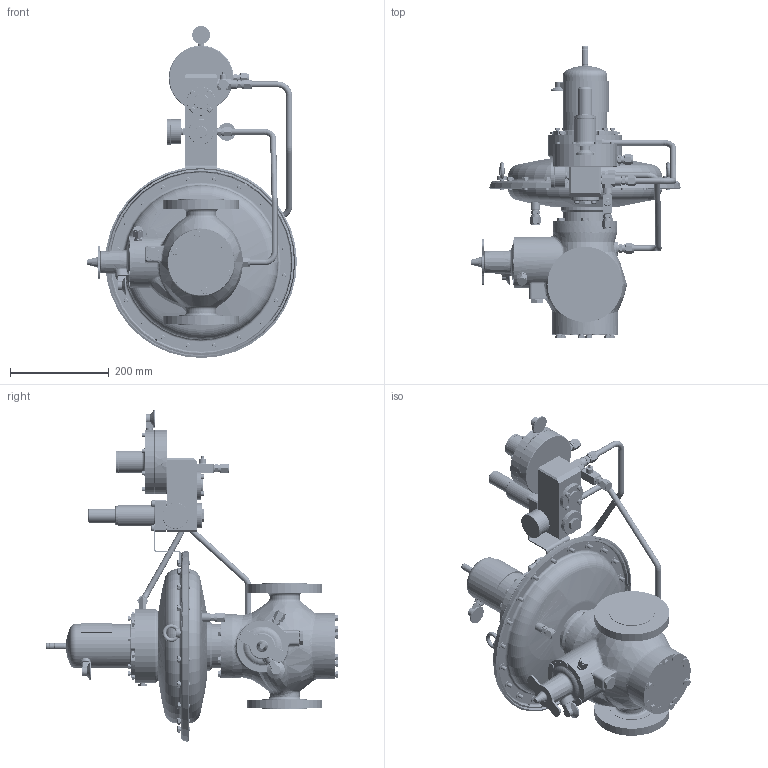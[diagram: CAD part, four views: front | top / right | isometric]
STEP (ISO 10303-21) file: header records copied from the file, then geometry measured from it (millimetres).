
FILE_DESCRIPTION((''),'2;1');
FILE_NAME('ASM0003_SW0002','2018-10-03T',('jjunior'),(''),'PRO/ENGINEER BY PARAMETRIC TECHNOLOGY CORPORATION, 2010160','PRO/ENGINEER BY PARAMETRIC TECHNOLOGY CORPORATION, 2010160','');
FILE_SCHEMA(('CONFIG_CONTROL_DESIGN'));
Products named in the file (1): ASM0003_SW0002
Bounding box: 423.77 x 590.15 x 670.92 mm (x, y, z)
Volume: 5573220.9 mm3; surface area: 1557798.6 mm2
Topology: 2 solids, 6 shells, 4022 faces, 9511 edges, 5851 vertices
Faces by surface type: plane 1325, cylinder 1118, cone 849, torus 444, bspline 248, sphere 35, extrusion 3
Entity records: 140043 total; most frequent: CARTESIAN_POINT 48895, DIRECTION 19245, ORIENTED_EDGE 18874, EDGE_CURVE 9437, AXIS2_PLACEMENT_3D 7927, VERTEX_POINT 5849, EDGE_LOOP 4552, CIRCLE 4156
